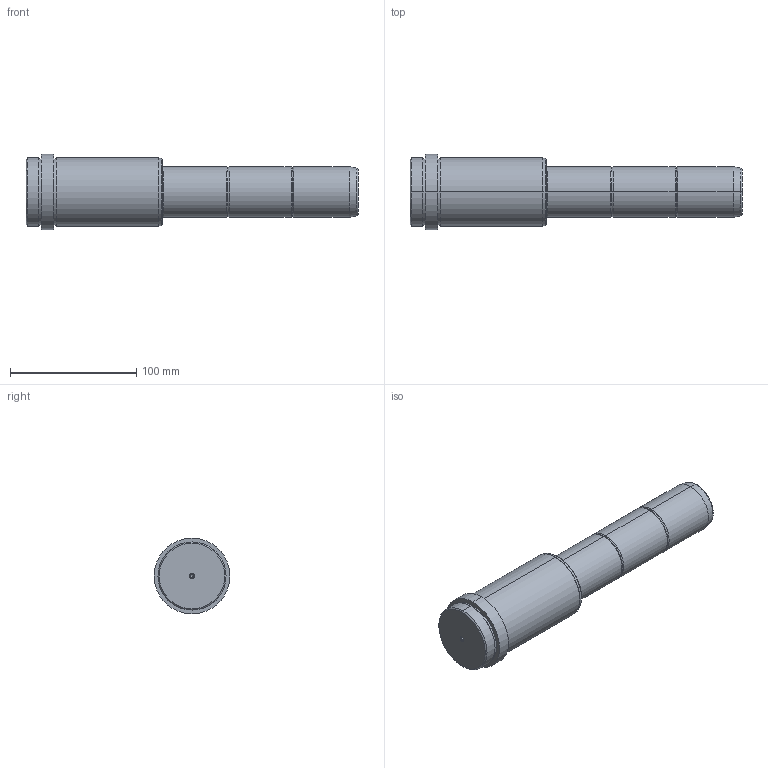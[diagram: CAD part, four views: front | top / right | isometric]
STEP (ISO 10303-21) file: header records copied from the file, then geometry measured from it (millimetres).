
FILE_DESCRIPTION( ( 'STEP AP203' ), '1' );
FILE_NAME( 'C:/Projects/D03 - 40x96x155.step', '2003-01-01T00:01:48', ( ' ' ), ( ' ' ), 'XStep 1.0', ' ', ' ' );
FILE_SCHEMA( ( 'CONFIG_CONTROL_DESIGN' ) );
Length unit declared in the file: metre
Products named in the file (1): 1
Bounding box: 263 x 60 x 60 mm (x, y, z)
Volume: 446164.1 mm3; surface area: 43619.8 mm2
Topology: 1 solids, 1 shells, 56 faces, 113 edges, 64 vertices
Faces by surface type: revolution 36, bspline 20
Entity records: 1691 total; most frequent: CARTESIAN_POINT 513, ORIENTED_EDGE 220, DIRECTION 218, EDGE_CURVE 110, AXIS2_PLACEMENT_3D 73, CIRCLE 72, EDGE_LOOP 64, VERTEX_POINT 64
